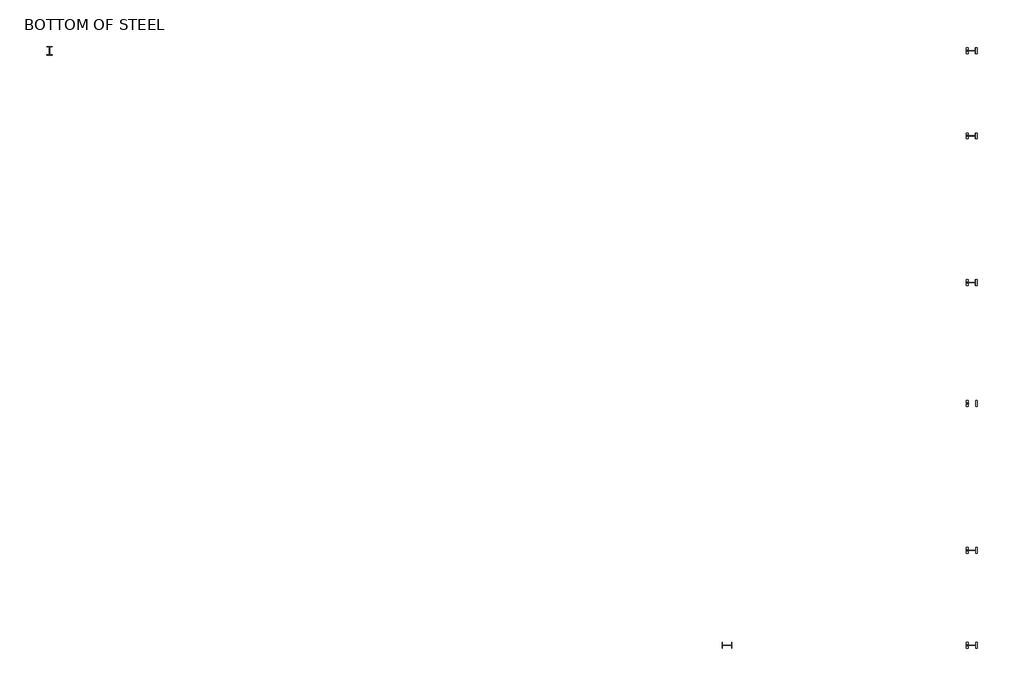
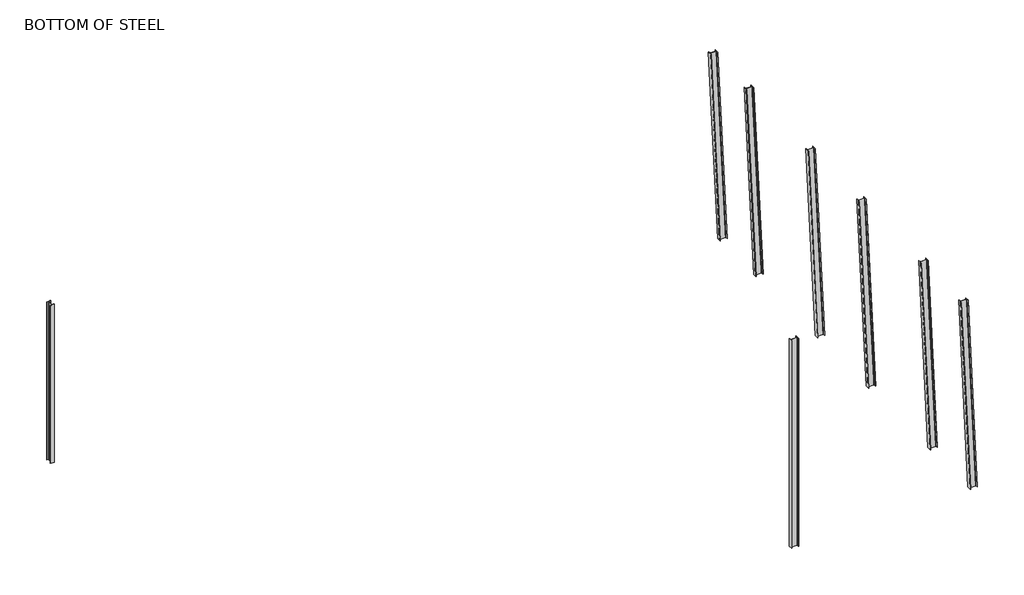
# One storey: 8 columns.
"""IFC4 building model written with IfcOpenShell, lengths in millimetres."""

from ifc_helpers import new_model, si_unit, point, frame, frame_2d, origin, place, context, project, spatial, polyline, circle_curve, ellipse_curve, trimmed, segment, composite_curve, outline, extrude, transform, mapped, element, save
from ifc_brep_helpers import plane_surface, revolved_surface, advanced_brep
from components import w_wide_flange_column_w12x40_d1cfc84d

model = new_model("IFC4")

# Units and contexts
model_context = context("Model", 3, world=origin())
ifc_project = project(units=[si_unit("LENGTHUNIT", "METRE", prefix="MILLI")], contexts=[model_context])

# Site, building, storey
site = spatial("IfcSite", under=ifc_project)
building = spatial("IfcBuilding", under=site)
storey = spatial("IfcBuildingStorey", under=building, Name="BOTTOM OF STEEL", Elevation=30302.2)

# Columns
placement = place(None, origin())
w_wide_flange_column_w12x40_shape = w_wide_flange_column_w12x40_d1cfc84d(model_context)
element("IfcColumn", 1, ObjectType="W-Wide Flange-Column : W12X40", at=placement, inside=storey, context=model_context, shape_type="MappedRepresentation", body=[
    mapped(w_wide_flange_column_w12x40_shape, transform((-10327.3204607, 7843.2445005, 0.0), x_axis=(-1.0000000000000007, 0.0, 0.0), y_axis=(0.0, -1.0000000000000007, 0.0), z_axis=(0.0, 0.0, 1.0))),
])
element("IfcColumn", 2, ObjectType="W-Wide Flange-Column : W14X43", at=placement, inside=storey, context=model_context, shape_type="SweptSolid", body=[
    extrude(outline(composite_curve([segment(polyline([(13394.2455549, -13038.8297182), (13407.7393049, -13038.8297182), (13407.7393049, -13115.0793276)]), True, "CONTINUOUS"), segment(trimmed(circle_curve(frame_2d((13429.1705549, -13115.0793276)), 21.43125), [point((13407.7393049, -13115.0793276))], [point((13429.1705549, -13136.5105776))], True, "CARTESIAN"), True, "CONTINUOUS"), segment(polyline([(13429.1705549, -13136.5105776), (13706.2885237, -13136.5105776)]), True, "CONTINUOUS"), segment(trimmed(circle_curve(frame_2d((13706.2885237, -13115.0793276)), 21.43125), [point((13706.2885237, -13136.5105776))], [point((13727.7197737, -13115.0793276))], True, "CARTESIAN"), True, "CONTINUOUS"), segment(polyline([(13727.7197737, -13115.0793276), (13727.7197737, -13038.8297182), (13741.2135237, -13038.8297182), (13741.2135237, -13241.9304995), (13727.7197737, -13241.9304995), (13727.7197737, -13165.6808901)]), True, "CONTINUOUS"), segment(trimmed(circle_curve(frame_2d((13706.2885237, -13165.6808901)), 21.43125), [point((13727.7197737, -13165.6808901))], [point((13706.2885237, -13144.2496401))], True, "CARTESIAN"), True, "CONTINUOUS"), segment(polyline([(13706.2885237, -13144.2496401), (13429.1705549, -13144.2496401)]), True, "CONTINUOUS"), segment(trimmed(circle_curve(frame_2d((13429.1705549, -13165.6808901)), 21.43125), [point((13429.1705549, -13144.2496401))], [point((13407.7393049, -13165.6808901))], True, "CARTESIAN"), True, "CONTINUOUS"), segment(polyline([(13407.7393049, -13165.6808901), (13407.7393049, -13241.9304995), (13394.2455549, -13241.9304995), (13394.2455549, -13038.8297182)]), True, "CONTINUOUS")], self_intersect=False)), frame((0.0, 0.0, 30302.2), z_axis=(0.0, 0.0, 1.0), x_axis=(1.0, 0.0, 0.0)), (0.0, 0.0, 1.0), 10644.6210144),
])
element("IfcColumn", 3, ObjectType="W-Wide Flange-Column : W14X43", at=placement, inside=storey, context=model_context, shape_type="AdvancedBrep", body=[
    advanced_brep(
    [(22401.0399532, 7741.6941099, 30310.5057441), (22387.5611284, 7741.6941099, 30309.8712594), (22387.5611284, 7817.9437193, 30309.8712594), (22366.1535831, 7839.3749693, 30308.8635484), (22089.3421295, 7839.3749693, 30295.8332848), (22067.9345842, 7817.9437193, 30294.8255738), (22067.9345842, 7741.6941099, 30294.8255738), (22054.4557594, 7741.6941099, 30294.1910891), (22054.4557594, 7944.7948911, 30294.1910891), (22067.9345842, 7944.7948911, 30294.8255738), (22067.9345842, 7868.5452818, 30294.8255738), (22089.3421295, 7847.1140318, 30295.8332848), (22366.1535831, 7847.1140318, 30308.8635484), (22387.5611284, 7868.5452818, 30309.8712594), (22387.5611284, 7944.7948911, 30309.8712594), (22401.0399532, 7944.7948911, 30310.5057441), (21930.12554, 7741.6941099, 40027.5112532), (21943.6342318, 7741.6941099, 40027.5112532), (21930.12554, 7817.9437193, 40027.5112532), (21908.6705591, 7839.3749693, 40027.5112532), (21631.2457358, 7839.3749693, 40027.5112532), (21609.7907548, 7817.9437193, 40027.5112532), (21609.7907548, 7741.6941099, 40027.5112532), (21596.2820631, 7741.6941099, 40027.5112532), (21596.2820631, 7944.7948911, 40027.5112532), (21609.7907548, 7944.7948911, 40027.5112532), (21609.7907548, 7868.5452818, 40027.5112532), (21631.2457358, 7847.1140318, 40027.5112532), (21908.6705591, 7847.1140318, 40027.5112532), (21930.12554, 7868.5452818, 40027.5112532), (21930.12554, 7944.7948911, 40027.5112532), (21943.6342318, 7944.7948911, 40027.5112532)],
    [
        (0, 1),
        (1, 2),
        (2, 3, circle_curve(frame((22366.1535831, 7817.9437193, 30308.8635484), z_axis=(-0.0470206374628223, 0.0, 0.9988939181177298), x_axis=(0.0, -1.0, 0.0)), 21.43125)),
        (3, 4),
        (4, 5, circle_curve(frame((22089.3421295, 7817.9437193, 30295.8332848), z_axis=(-0.0470206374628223, 0.0, 0.9988939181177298), x_axis=(0.0, -1.0, 0.0)), 21.43125)),
        (5, 6),
        (6, 7),
        (7, 8),
        (8, 9),
        (9, 10),
        (10, 11, circle_curve(frame((22089.3421295, 7868.5452818, 30295.8332848), z_axis=(-0.0470206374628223, 0.0, 0.9988939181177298), x_axis=(0.0, -1.0, 0.0)), 21.43125)),
        (11, 12),
        (12, 13, circle_curve(frame((22366.1535831, 7868.5452818, 30308.8635484), z_axis=(-0.0470206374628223, 0.0, 0.9988939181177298), x_axis=(0.0, -1.0, 0.0)), 21.43125)),
        (13, 14),
        (14, 15),
        (15, 0),
        (16, 1),
        (0, 17),
        (17, 16),
        (18, 2),
        (16, 18),
        (19, 3),
        (18, 19, ellipse_curve(frame((21908.6705591, 7817.9437193, 40027.5112532), z_axis=(0.0, 0.0, 1.0), x_axis=(1.0, 0.0, 0.0)), 21.454981, 21.43125)),
        (20, 4),
        (19, 20),
        (21, 5),
        (20, 21, ellipse_curve(frame((21631.2457358, 7817.9437193, 40027.5112532), z_axis=(0.0, 0.0, 1.0), x_axis=(1.0, 0.0, 0.0)), 21.454981, 21.43125)),
        (22, 6),
        (21, 22),
        (23, 7),
        (22, 23),
        (24, 8),
        (23, 24),
        (25, 9),
        (24, 25),
        (26, 10),
        (25, 26),
        (27, 11),
        (26, 27, ellipse_curve(frame((21631.2457358, 7868.5452818, 40027.5112532), z_axis=(0.0, 0.0, 1.0), x_axis=(1.0, 0.0, 0.0)), 21.454981, 21.43125)),
        (28, 12),
        (27, 28),
        (29, 13),
        (28, 29, ellipse_curve(frame((21908.6705591, 7868.5452818, 40027.5112532), z_axis=(0.0, 0.0, 1.0), x_axis=(1.0, 0.0, 0.0)), 21.454981, 21.43125)),
        (30, 14),
        (29, 30),
        (31, 15),
        (30, 31),
        (31, 17),
    ],
    [
        plane_surface(frame((22401.0399532, 7944.7948911, 30310.5057441), z_axis=(0.0470206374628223, 0.0, -0.9988939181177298), x_axis=(0.0, -1.0, 0.0))),
        plane_surface(frame((21910.8462782, 7741.6941099, 40437.074764), z_axis=(0.0, -1.0, 0.0), x_axis=(0.0470206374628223, 0.0, -0.9988939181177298))),
        plane_surface(frame((21910.8462782, 7817.9437193, 40437.074764), z_axis=(-0.9988939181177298, 0.0, -0.0470206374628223), x_axis=(0.0470206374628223, 0.0, -0.9988939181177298))),
        revolved_surface(polyline([(22366.153583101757, 7796.512469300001, 30308.863548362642), (21908.623123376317, 7796.512469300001, 40028.518964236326)]), (22366.1535831, 7817.9437193, 30308.8635484), (0.0470206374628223, 0.0, -0.9988939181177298)),
        plane_surface(frame((21612.6272794, 7839.3749693, 40423.0367894), z_axis=(0.0, -1.0, 0.0), x_axis=(0.0470206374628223, 0.0, -0.9988939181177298))),
        revolved_surface(polyline([(22089.3421295, 7796.512469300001, 30295.8332848), (21631.198300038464, 7796.512469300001, 40028.51896423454)]), (22089.3421295, 7817.9437193, 30295.8332848), (0.0470206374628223, 0.0, -0.9988939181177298)),
        plane_surface(frame((21591.2197341, 7741.6941099, 40422.0290784), z_axis=(0.9988939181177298, 0.0, 0.0470206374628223), x_axis=(0.0470206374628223, 0.0, -0.9988939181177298))),
        plane_surface(frame((21577.7409093, 7741.6941099, 40421.3945936), z_axis=(0.0, -1.0, 0.0), x_axis=(0.0470206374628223, 0.0, -0.9988939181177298))),
        plane_surface(frame((21577.7409093, 7944.7948911, 40421.3945936), z_axis=(-0.9988939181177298, 0.0, -0.0470206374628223), x_axis=(0.0470206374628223, 0.0, -0.9988939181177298))),
        plane_surface(frame((21591.2197341, 7944.7948911, 40422.0290784), z_axis=(0.0, 1.0, 0.0), x_axis=(0.0470206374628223, 0.0, -0.9988939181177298))),
        plane_surface(frame((21591.2197341, 7868.5452818, 40422.0290784), z_axis=(0.9988939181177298, 0.0, 0.0470206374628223), x_axis=(0.0470206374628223, 0.0, -0.9988939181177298))),
        revolved_surface(polyline([(22089.3421295, 7847.114031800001, 30295.8332848), (21631.198300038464, 7847.114031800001, 40028.51896423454)]), (22089.3421295, 7868.5452818, 30295.8332848), (0.0470206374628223, 0.0, -0.9988939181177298)),
        plane_surface(frame((21889.438733, 7847.1140318, 40436.0670529), z_axis=(0.0, 1.0, 0.0), x_axis=(0.0470206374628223, 0.0, -0.9988939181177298))),
        revolved_surface(polyline([(22366.153583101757, 7847.114031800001, 30308.863548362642), (21908.623123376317, 7847.114031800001, 40028.518964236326)]), (22366.1535831, 7868.5452818, 30308.8635484), (0.0470206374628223, 0.0, -0.9988939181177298)),
        plane_surface(frame((21910.8462782, 7944.7948911, 40437.074764), z_axis=(-0.9988939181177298, 0.0, -0.0470206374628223), x_axis=(0.0470206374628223, 0.0, -0.9988939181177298))),
        plane_surface(frame((21924.325103, 7944.7948911, 40437.7092487), z_axis=(0.0, 1.0, 0.0), x_axis=(0.0470206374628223, 0.0, -0.9988939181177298))),
        plane_surface(frame((21924.325103, 7741.6941099, 40437.7092487), z_axis=(0.9988939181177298, 0.0, 0.0470206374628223), x_axis=(0.0470206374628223, 0.0, -0.9988939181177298))),
        plane_surface(frame((21632.4522163, -14144.6665525, 40027.5112532), z_axis=(0.0, 0.0, 1.0), x_axis=(-1.0, 0.0, 0.0))),
    ],
    [
        (0, [[1, 2, 3, 4, 5, 6, 7, 8, 9, 10, 11, 12, 13, 14, 15, 16]]),
        (1, [[17, -1, 18, 19]]),
        (2, [[20, -2, -17, 21]]),
        (3, [[22, -3, -20, 23]]),
        (4, [[24, -4, -22, 25]]),
        (5, [[26, -5, -24, 27]]),
        (6, [[28, -6, -26, 29]]),
        (7, [[30, -7, -28, 31]]),
        (8, [[32, -8, -30, 33]]),
        (9, [[34, -9, -32, 35]]),
        (10, [[36, -10, -34, 37]]),
        (11, [[38, -11, -36, 39]]),
        (12, [[40, -12, -38, 41]]),
        (13, [[42, -13, -40, 43]]),
        (14, [[44, -14, -42, 45]]),
        (15, [[46, -15, -44, 47]]),
        (16, [[-18, -16, -46, 48]]),
        (17, [[-19, -48, -47, -45, -43, -41, -39, -37, -35, -33, -31, -29, -27, -25, -23, -21]]),
    ],
),
])
element("IfcColumn", 4, ObjectType="W-Wide Flange-Column : W14X43", at=placement, inside=storey, context=model_context, shape_type="AdvancedBrep", body=[
    advanced_brep(
    [(22401.0400188, 4741.2695005, 30310.5043501), (22387.5611889, 4741.2695005, 30309.8699738), (22387.5611889, 4817.5191099, 30309.8699738), (22366.1536355, 4838.9503599, 30308.862435), (22089.3420771, 4838.9503599, 30295.8343982), (22067.9345237, 4817.5191099, 30294.8268593), (22067.9345237, 4741.2695005, 30294.8268593), (22054.4556938, 4741.2695005, 30294.192483), (22054.4556938, 4944.3702818, 30294.192483), (22067.9345237, 4944.3702818, 30294.8268593), (22067.9345237, 4868.1206724, 30294.8268593), (22089.3420771, 4846.6894224, 30295.8343982), (22366.1536355, 4846.6894224, 30308.862435), (22387.5611889, 4868.1206724, 30309.8699738), (22387.5611889, 4944.3702818, 30309.8699738), (22401.0400188, 4944.3702818, 30310.5043501), (21930.1254794, 4741.2695005, 40029.1771213), (21943.634166, 4741.2695005, 40029.1771213), (21930.1254794, 4817.5191099, 40029.1771213), (21908.6705066, 4838.9503599, 40029.1771213), (21631.2457883, 4838.9503599, 40029.1771213), (21609.7908154, 4817.5191099, 40029.1771213), (21609.7908154, 4741.2695005, 40029.1771213), (21596.2821288, 4741.2695005, 40029.1771213), (21596.2821288, 4944.3702818, 40029.1771213), (21609.7908154, 4944.3702818, 40029.1771213), (21609.7908154, 4868.1206724, 40029.1771213), (21631.2457883, 4846.6894224, 40029.1771213), (21908.6705066, 4846.6894224, 40029.1771213), (21930.1254794, 4868.1206724, 40029.1771213), (21930.1254794, 4944.3702818, 40029.1771213), (21943.634166, 4944.3702818, 40029.1771213)],
    [
        (0, 1),
        (1, 2),
        (2, 3, circle_curve(frame((22366.1536355, 4817.5191099, 30308.862435), z_axis=(-0.04701260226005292, 0.0, 0.9988942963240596), x_axis=(0.0, -1.0, 0.0)), 21.43125)),
        (3, 4),
        (4, 5, circle_curve(frame((22089.3420771, 4817.5191099, 30295.8343982), z_axis=(-0.04701260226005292, 0.0, 0.9988942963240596), x_axis=(0.0, -1.0, 0.0)), 21.43125)),
        (5, 6),
        (6, 7),
        (7, 8),
        (8, 9),
        (9, 10),
        (10, 11, circle_curve(frame((22089.3420771, 4868.1206724, 30295.8343982), z_axis=(-0.04701260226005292, 0.0, 0.9988942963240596), x_axis=(0.0, -1.0, 0.0)), 21.43125)),
        (11, 12),
        (12, 13, circle_curve(frame((22366.1536355, 4868.1206724, 30308.862435), z_axis=(-0.04701260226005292, 0.0, 0.9988942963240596), x_axis=(0.0, -1.0, 0.0)), 21.43125)),
        (13, 14),
        (14, 15),
        (15, 0),
        (16, 1),
        (0, 17),
        (17, 16),
        (18, 2),
        (16, 18),
        (19, 3),
        (18, 19, ellipse_curve(frame((21908.6705066, 4817.5191099, 40029.1771213), z_axis=(0.0, 0.0, 1.0), x_axis=(1.0, 0.0, 0.0)), 21.4549728, 21.43125)),
        (20, 4),
        (19, 20),
        (21, 5),
        (20, 21, ellipse_curve(frame((21631.2457883, 4817.5191099, 40029.1771213), z_axis=(0.0, 0.0, 1.0), x_axis=(1.0, 0.0, 0.0)), 21.4549728, 21.43125)),
        (22, 6),
        (21, 22),
        (23, 7),
        (22, 23),
        (24, 8),
        (23, 24),
        (25, 9),
        (24, 25),
        (26, 10),
        (25, 26),
        (27, 11),
        (26, 27, ellipse_curve(frame((21631.2457883, 4868.1206724, 40029.1771213), z_axis=(0.0, 0.0, 1.0), x_axis=(1.0, 0.0, 0.0)), 21.4549728, 21.43125)),
        (28, 12),
        (27, 28),
        (29, 13),
        (28, 29, ellipse_curve(frame((21908.6705066, 4868.1206724, 40029.1771213), z_axis=(0.0, 0.0, 1.0), x_axis=(1.0, 0.0, 0.0)), 21.4549728, 21.43125)),
        (30, 14),
        (29, 30),
        (31, 15),
        (30, 31),
        (31, 17),
    ],
    [
        plane_surface(frame((22401.0400188, 4944.3702818, 30310.5043501), z_axis=(0.04701260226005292, 0.0, -0.9988942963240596), x_axis=(0.0, -1.0, 0.0))),
        plane_surface(frame((21910.84958, 4741.2695005, 40438.7393465), z_axis=(0.0, -1.0, 0.0), x_axis=(0.04701260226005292, 0.0, -0.9988942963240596))),
        plane_surface(frame((21910.84958, 4817.5191099, 40438.7393465), z_axis=(-0.9988942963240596, 0.0, -0.04701260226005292), x_axis=(0.04701260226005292, 0.0, -0.9988942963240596))),
        revolved_surface(polyline([(22366.153635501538, 4796.087859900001, 30308.862434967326), (21908.623087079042, 4796.087859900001, 40030.18466012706)]), (22366.1536355, 4817.5191099, 30308.862435), (0.04701260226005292, 0.0, -0.9988942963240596)),
        plane_surface(frame((21612.6304682, 4838.9503599, 40424.7037709), z_axis=(0.0, -1.0, 0.0), x_axis=(0.04701260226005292, 0.0, -0.9988942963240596))),
        revolved_surface(polyline([(22089.342077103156, 4796.087859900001, 30295.834398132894), (21631.198368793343, 4796.087859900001, 40030.184660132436)]), (22089.3420771, 4817.5191099, 30295.8343982), (0.04701260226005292, 0.0, -0.9988942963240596)),
        plane_surface(frame((21591.2229148, 4741.2695005, 40423.696232), z_axis=(0.9988942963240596, 0.0, 0.04701260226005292), x_axis=(0.04701260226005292, 0.0, -0.9988942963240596))),
        plane_surface(frame((21577.7440849, 4741.2695005, 40423.0618557), z_axis=(0.0, -1.0, 0.0), x_axis=(0.04701260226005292, 0.0, -0.9988942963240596))),
        plane_surface(frame((21577.7440849, 4944.3702818, 40423.0618557), z_axis=(-0.9988942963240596, 0.0, -0.04701260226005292), x_axis=(0.04701260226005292, 0.0, -0.9988942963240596))),
        plane_surface(frame((21591.2229148, 4944.3702818, 40423.696232), z_axis=(0.0, 1.0, 0.0), x_axis=(0.04701260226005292, 0.0, -0.9988942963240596))),
        plane_surface(frame((21591.2229148, 4868.1206724, 40423.696232), z_axis=(0.9988942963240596, 0.0, 0.04701260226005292), x_axis=(0.04701260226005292, 0.0, -0.9988942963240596))),
        revolved_surface(polyline([(22089.342077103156, 4846.689422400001, 30295.834398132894), (21631.198368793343, 4846.689422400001, 40030.184660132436)]), (22089.3420771, 4868.1206724, 30295.8343982), (0.04701260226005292, 0.0, -0.9988942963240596)),
        plane_surface(frame((21889.4420266, 4846.6894224, 40437.7318077), z_axis=(0.0, 1.0, 0.0), x_axis=(0.04701260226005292, 0.0, -0.9988942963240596))),
        revolved_surface(polyline([(22366.153635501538, 4846.689422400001, 30308.862434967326), (21908.623087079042, 4846.689422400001, 40030.18466012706)]), (22366.1536355, 4868.1206724, 30308.862435), (0.04701260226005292, 0.0, -0.9988942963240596)),
        plane_surface(frame((21910.84958, 4944.3702818, 40438.7393465), z_axis=(-0.9988942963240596, 0.0, -0.04701260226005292), x_axis=(0.04701260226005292, 0.0, -0.9988942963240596))),
        plane_surface(frame((21924.3284099, 4944.3702818, 40439.3737228), z_axis=(0.0, 1.0, 0.0), x_axis=(0.04701260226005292, 0.0, -0.9988942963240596))),
        plane_surface(frame((21924.3284099, 4741.2695005, 40439.3737228), z_axis=(0.9988942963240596, 0.0, 0.04701260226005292), x_axis=(0.04701260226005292, 0.0, -0.9988942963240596))),
        plane_surface(frame((21769.9581474, 4842.8198911, 40029.1771213), z_axis=(0.0, 0.0, 1.0), x_axis=(-1.0, 0.0, 0.0))),
    ],
    [
        (0, [[1, 2, 3, 4, 5, 6, 7, 8, 9, 10, 11, 12, 13, 14, 15, 16]]),
        (1, [[17, -1, 18, 19]]),
        (2, [[20, -2, -17, 21]]),
        (3, [[22, -3, -20, 23]]),
        (4, [[24, -4, -22, 25]]),
        (5, [[26, -5, -24, 27]]),
        (6, [[28, -6, -26, 29]]),
        (7, [[30, -7, -28, 31]]),
        (8, [[32, -8, -30, 33]]),
        (9, [[34, -9, -32, 35]]),
        (10, [[36, -10, -34, 37]]),
        (11, [[38, -11, -36, 39]]),
        (12, [[40, -12, -38, 41]]),
        (13, [[42, -13, -40, 43]]),
        (14, [[44, -14, -42, 45]]),
        (15, [[46, -15, -44, 47]]),
        (16, [[-18, -16, -46, 48]]),
        (17, [[-48, -47, -45, -43, -41, -39, -37, -35, -33, -31, -29, -27, -25, -23, -21, -19]]),
    ],
),
])
element("IfcColumn", 5, ObjectType="W-Wide Flange-Column : W14X43", at=placement, inside=storey, context=model_context, shape_type="AdvancedBrep", body=[
    advanced_brep(
    [(22401.0400188, -440.2312807, 30310.5043501), (22387.5611889, -440.2312807, 30309.8699738), (22387.5611889, -363.9816714, 30309.8699738), (22366.1536355, -342.5504214, 30308.862435), (22089.3420771, -342.5504214, 30295.8343982), (22067.9345237, -363.9816714, 30294.8268593), (22067.9345237, -440.2312807, 30294.8268593), (22054.4556938, -440.2312807, 30294.192483), (22054.4556938, -237.1304995, 30294.192483), (22067.9345237, -237.1304995, 30294.8268593), (22067.9345237, -313.3801089, 30294.8268593), (22089.3420771, -334.8113589, 30295.8343982), (22366.1536355, -334.8113589, 30308.862435), (22387.5611889, -313.3801089, 30309.8699738), (22387.5611889, -237.1304995, 30309.8699738), (22401.0400188, -237.1304995, 30310.5043501), (21929.7416233, -440.2312807, 40037.3330549), (21943.2503099, -440.2312807, 40037.3330549), (21929.7416233, -363.9816714, 40037.3330549), (21908.2866505, -342.5504214, 40037.3330549), (21630.8619322, -342.5504214, 40037.3330549), (21609.4069593, -363.9816714, 40037.3330549), (21609.4069593, -440.2312807, 40037.3330549), (21595.8982727, -440.2312807, 40037.3330549), (21595.8982727, -237.1304995, 40037.3330549), (21609.4069593, -237.1304995, 40037.3330549), (21609.4069593, -313.3801089, 40037.3330549), (21630.8619322, -334.8113589, 40037.3330549), (21908.2866505, -334.8113589, 40037.3330549), (21929.7416233, -313.3801089, 40037.3330549), (21929.7416233, -237.1304995, 40037.3330549), (21943.2503099, -237.1304995, 40037.3330549)],
    [
        (0, 1),
        (1, 2),
        (2, 3, circle_curve(frame((22366.1536355, -363.9816714, 30308.862435), z_axis=(-0.04701260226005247, 0.0, 0.9988942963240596), x_axis=(0.0, -1.0, 0.0)), 21.43125)),
        (3, 4),
        (4, 5, circle_curve(frame((22089.3420771, -363.9816714, 30295.8343982), z_axis=(-0.04701260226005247, 0.0, 0.9988942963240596), x_axis=(0.0, -1.0, 0.0)), 21.43125)),
        (5, 6),
        (6, 7),
        (7, 8),
        (8, 9),
        (9, 10),
        (10, 11, circle_curve(frame((22089.3420771, -313.3801089, 30295.8343982), z_axis=(-0.04701260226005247, 0.0, 0.9988942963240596), x_axis=(0.0, -1.0, 0.0)), 21.43125)),
        (11, 12),
        (12, 13, circle_curve(frame((22366.1536355, -313.3801089, 30308.862435), z_axis=(-0.04701260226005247, 0.0, 0.9988942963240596), x_axis=(0.0, -1.0, 0.0)), 21.43125)),
        (13, 14),
        (14, 15),
        (15, 0),
        (16, 1),
        (0, 17),
        (17, 16),
        (18, 2),
        (16, 18),
        (19, 3),
        (18, 19, ellipse_curve(frame((21908.2866505, -363.9816714, 40037.3330549), z_axis=(0.0, 0.0, 1.0), x_axis=(1.0, 0.0, 0.0)), 21.4549728, 21.43125)),
        (20, 4),
        (19, 20),
        (21, 5),
        (20, 21, ellipse_curve(frame((21630.8619322, -363.9816714, 40037.3330549), z_axis=(0.0, 0.0, 1.0), x_axis=(1.0, 0.0, 0.0)), 21.4549728, 21.43125)),
        (22, 6),
        (21, 22),
        (23, 7),
        (22, 23),
        (24, 8),
        (23, 24),
        (25, 9),
        (24, 25),
        (26, 10),
        (25, 26),
        (27, 11),
        (26, 27, ellipse_curve(frame((21630.8619322, -313.3801089, 40037.3330549), z_axis=(0.0, 0.0, 1.0), x_axis=(1.0, 0.0, 0.0)), 21.4549728, 21.43125)),
        (28, 12),
        (27, 28),
        (29, 13),
        (28, 29, ellipse_curve(frame((21908.2866505, -313.3801089, 40037.3330549), z_axis=(0.0, 0.0, 1.0), x_axis=(1.0, 0.0, 0.0)), 21.4549728, 21.43125)),
        (30, 14),
        (29, 30),
        (31, 15),
        (30, 31),
        (31, 17),
    ],
    [
        plane_surface(frame((22401.0400188, -237.1304995, 30310.5043501), z_axis=(0.04701260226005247, 0.0, -0.9988942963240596), x_axis=(0.0, -1.0, 0.0))),
        plane_surface(frame((21910.49831, -440.2312807, 40446.2029096), z_axis=(0.0, -1.0, 0.0), x_axis=(0.04701260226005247, 0.0, -0.9988942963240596))),
        plane_surface(frame((21910.49831, -363.9816714, 40446.2029096), z_axis=(-0.9988942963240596, 0.0, -0.04701260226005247), x_axis=(0.04701260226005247, 0.0, -0.9988942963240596))),
        revolved_surface(polyline([(22366.153635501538, -385.41292139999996, 30308.862434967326), (21908.239230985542, -385.41292139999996, 40038.340593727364)]), (22366.1536355, -363.9816714, 30308.862435), (0.04701260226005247, 0.0, -0.9988942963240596)),
        plane_surface(frame((21612.2791983, -342.5504214, 40432.1673339), z_axis=(0.0, -1.0, 0.0), x_axis=(0.04701260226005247, 0.0, -0.9988942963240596))),
        revolved_surface(polyline([(22089.342077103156, -385.41292139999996, 30295.834398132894), (21630.814512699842, -385.41292139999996, 40038.34059373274)]), (22089.3420771, -363.9816714, 30295.8343982), (0.04701260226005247, 0.0, -0.9988942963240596)),
        plane_surface(frame((21590.8716449, -440.2312807, 40431.1597951), z_axis=(0.9988942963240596, 0.0, 0.04701260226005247), x_axis=(0.04701260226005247, 0.0, -0.9988942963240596))),
        plane_surface(frame((21577.392815, -440.2312807, 40430.5254188), z_axis=(0.0, -1.0, 0.0), x_axis=(0.04701260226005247, 0.0, -0.9988942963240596))),
        plane_surface(frame((21577.392815, -237.1304995, 40430.5254188), z_axis=(-0.9988942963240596, 0.0, -0.04701260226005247), x_axis=(0.04701260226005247, 0.0, -0.9988942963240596))),
        plane_surface(frame((21590.8716449, -237.1304995, 40431.1597951), z_axis=(0.0, 1.0, 0.0), x_axis=(0.04701260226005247, 0.0, -0.9988942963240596))),
        plane_surface(frame((21590.8716449, -313.3801089, 40431.1597951), z_axis=(0.9988942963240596, 0.0, 0.04701260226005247), x_axis=(0.04701260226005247, 0.0, -0.9988942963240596))),
        revolved_surface(polyline([(22089.342077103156, -334.81135889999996, 30295.834398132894), (21630.814512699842, -334.81135889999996, 40038.34059373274)]), (22089.3420771, -313.3801089, 30295.8343982), (0.04701260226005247, 0.0, -0.9988942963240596)),
        plane_surface(frame((21889.0907567, -334.8113589, 40445.1953708), z_axis=(0.0, 1.0, 0.0), x_axis=(0.04701260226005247, 0.0, -0.9988942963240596))),
        revolved_surface(polyline([(22366.153635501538, -334.81135889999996, 30308.862434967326), (21908.239230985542, -334.81135889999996, 40038.340593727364)]), (22366.1536355, -313.3801089, 30308.862435), (0.04701260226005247, 0.0, -0.9988942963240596)),
        plane_surface(frame((21910.49831, -237.1304995, 40446.2029096), z_axis=(-0.9988942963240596, 0.0, -0.04701260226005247), x_axis=(0.04701260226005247, 0.0, -0.9988942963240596))),
        plane_surface(frame((21923.97714, -237.1304995, 40446.8372859), z_axis=(0.0, 1.0, 0.0), x_axis=(0.04701260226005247, 0.0, -0.9988942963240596))),
        plane_surface(frame((21923.97714, -440.2312807, 40446.8372859), z_axis=(0.9988942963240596, 0.0, 0.04701260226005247), x_axis=(0.04701260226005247, 0.0, -0.9988942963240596))),
        plane_surface(frame((21769.9581474, -338.6808901, 40037.3330549), z_axis=(0.0, 0.0, 1.0), x_axis=(-1.0, 0.0, 0.0))),
    ],
    [
        (0, [[1, 2, 3, 4, 5, 6, 7, 8, 9, 10, 11, 12, 13, 14, 15, 16]]),
        (1, [[17, -1, 18, 19]]),
        (2, [[20, -2, -17, 21]]),
        (3, [[22, -3, -20, 23]]),
        (4, [[24, -4, -22, 25]]),
        (5, [[26, -5, -24, 27]]),
        (6, [[28, -6, -26, 29]]),
        (7, [[30, -7, -28, 31]]),
        (8, [[32, -8, -30, 33]]),
        (9, [[34, -9, -32, 35]]),
        (10, [[36, -10, -34, 37]]),
        (11, [[38, -11, -36, 39]]),
        (12, [[40, -12, -38, 41]]),
        (13, [[42, -13, -40, 43]]),
        (14, [[44, -14, -42, 45]]),
        (15, [[46, -15, -44, 47]]),
        (16, [[-18, -16, -46, 48]]),
        (17, [[-48, -47, -45, -43, -41, -39, -37, -35, -33, -31, -29, -27, -25, -23, -21, -19]]),
    ],
),
])
element("IfcColumn", 6, ObjectType="W-Wide Flange-Column : W14X43", at=placement, inside=storey, context=model_context, shape_type="AdvancedBrep", body=[
    advanced_brep(
    [(22401.0414179, -4707.5311023, 30310.467032), (22387.5624517, -4707.5310554, 30309.8355583), (22387.5627169, -4631.281446, 30309.8355583), (22366.1550216, -4609.8501215, 30308.8326295), (22089.3406641, -4609.8491587, 30295.8642036), (22067.9328197, -4631.2803342, 30294.8612749), (22067.9325545, -4707.5299436, 30294.8612749), (22054.4535883, -4707.5298967, 30294.2298012), (22054.4542947, -4504.4291155, 30294.2298012), (22067.9332609, -4504.4291623, 30294.8612749), (22067.9329957, -4580.6787717, 30294.8612749), (22089.340691, -4602.1100962, 30295.8642036), (22366.1550485, -4602.111059, 30308.8326295), (22387.562893, -4580.6798835, 30309.8355583), (22387.5631582, -4504.4302741, 30309.8355583), (22401.0421244, -4504.430321, 30310.467032), (21931.8534825, -4707.5294703, 40037.0596917), (21945.3620327, -4707.5295172, 40037.0596884), (21931.853155, -4631.2798609, 40037.0723444), (21910.3983068, -4609.8485363, 40037.075906), (21632.9763906, -4609.8475713, 40037.0759744), (21611.5217265, -4631.2787466, 40037.0724235), (21611.5220541, -4707.528356, 40037.0597708), (21598.0135039, -4707.528309, 40037.0597741), (21598.0126315, -4504.4275278, 40037.0934762), (21611.5211816, -4504.4275748, 40037.0934729), (21611.5215092, -4580.6771841, 40037.0808202), (21632.9763574, -4602.1085088, 40037.0772586), (21910.3982735, -4602.1094738, 40037.0771902), (21931.8529376, -4580.6782984, 40037.0807411), (21931.8526101, -4504.428689, 40037.0933938), (21945.3611602, -4504.428736, 40037.0933905)],
    [
        (0, 1),
        (1, 2),
        (2, 3, circle_curve(frame((22366.1549471, -4631.2813715, 30308.8326295), z_axis=(-0.04679749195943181, 1.6277925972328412e-07, 0.9989043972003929), x_axis=(-3.4783757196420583e-06, -0.9999999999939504, 0.0)), 21.43125)),
        (3, 4),
        (4, 5, circle_curve(frame((22089.3405896, -4631.2804087, 30295.8642036), z_axis=(-0.04679749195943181, 1.6277925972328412e-07, 0.9989043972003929), x_axis=(-3.4783757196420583e-06, -0.9999999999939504, 0.0)), 21.43125)),
        (5, 6),
        (6, 7),
        (7, 8),
        (8, 9),
        (9, 10),
        (10, 11, circle_curve(frame((22089.3407656, -4580.6788462, 30295.8642036), z_axis=(-0.04679749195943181, 1.6277925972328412e-07, 0.9989043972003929), x_axis=(-3.4783757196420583e-06, -0.9999999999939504, 0.0)), 21.43125)),
        (11, 12),
        (12, 13, circle_curve(frame((22366.1551231, -4580.679809, 30308.8326295), z_axis=(-0.04679749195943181, 1.6277925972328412e-07, 0.9989043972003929), x_axis=(-3.4783757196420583e-06, -0.9999999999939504, 0.0)), 21.43125)),
        (13, 14),
        (14, 15),
        (15, 0),
        (16, 1),
        (0, 17),
        (17, 16),
        (18, 2),
        (16, 18),
        (19, 3),
        (18, 19, ellipse_curve(frame((21910.3983988, -4631.2797863, 40037.0723497), z_axis=(2.4618600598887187e-07, -0.00016593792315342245, 0.9999999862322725), x_axis=(0.9999937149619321, -0.003545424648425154, -8.345048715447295e-07)), 21.4547564, 21.43125)),
        (20, 4),
        (19, 20),
        (21, 5),
        (20, 21, ellipse_curve(frame((21632.9764827, -4631.2788213, 40037.0724182), z_axis=(2.4618600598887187e-07, -0.00016593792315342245, 0.9999999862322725), x_axis=(0.9999937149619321, -0.003545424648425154, -8.345048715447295e-07)), 21.4547564, 21.43125)),
        (22, 6),
        (21, 22),
        (23, 7),
        (22, 23),
        (24, 8),
        (23, 24),
        (25, 9),
        (24, 25),
        (26, 10),
        (25, 26),
        (27, 11),
        (26, 27, ellipse_curve(frame((21632.9762653, -4580.6772588, 40037.0808149), z_axis=(2.4618600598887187e-07, -0.00016593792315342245, 0.9999999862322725), x_axis=(0.9999937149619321, -0.003545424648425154, -8.345048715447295e-07)), 21.4547564, 21.43125)),
        (28, 12),
        (27, 28),
        (29, 13),
        (28, 29, ellipse_curve(frame((21910.3981815, -4580.6782238, 40037.0807464), z_axis=(2.4618600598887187e-07, -0.00016593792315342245, 0.9999999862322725), x_axis=(0.9999937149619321, -0.003545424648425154, -8.345048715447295e-07)), 21.4547564, 21.43125)),
        (30, 14),
        (29, 30),
        (31, 15),
        (30, 31),
        (31, 17),
    ],
    [
        plane_surface(frame((22401.0421244, -4504.430321, 30310.467032), z_axis=(0.046797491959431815, -1.6277925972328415e-07, -0.9989043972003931), x_axis=(-3.4783757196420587e-06, -0.9999999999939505, 0.0))),
        plane_surface(frame((21912.6667962, -4707.5294035, 40446.6044021), z_axis=(-3.4783757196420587e-06, -0.9999999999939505, 0.0), x_axis=(0.04679749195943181, -1.6277925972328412e-07, -0.9989043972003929))),
        plane_surface(frame((21912.6670615, -4631.2797941, 40446.6044021), z_axis=(-0.9989043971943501, 3.4745648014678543e-06, -0.046797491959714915), x_axis=(0.04679749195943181, -1.6277925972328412e-07, -0.9989043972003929))),
        revolved_surface(polyline([(22366.15487255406, -4652.712621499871, 30308.8326295), (21910.351337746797, -4652.711036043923, 40038.07529005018)]), (22366.1549471, -4631.2813715, 30308.8326295), (0.04679749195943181, -1.6277925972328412e-07, -0.9989043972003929)),
        plane_surface(frame((21614.4450086, -4609.8475068, 40432.6330475), z_axis=(-3.4783757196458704e-06, -0.9999999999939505, 0.0), x_axis=(0.04679749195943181, -1.6277925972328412e-07, -0.9989043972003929))),
        revolved_surface(polyline([(22089.34051505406, -4652.711658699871, 30295.8642036), (21632.929421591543, -4652.710071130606, 40038.07535854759)]), (22089.3405896, -4631.2804087, 30295.8642036), (0.04679749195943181, -1.6277925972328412e-07, -0.9989043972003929)),
        plane_surface(frame((21593.036899, -4707.5282917, 40431.6301187), z_axis=(0.9989043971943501, -3.4745648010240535e-06, 0.046797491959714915), x_axis=(0.04679749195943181, -1.6277925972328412e-07, -0.9989043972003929))),
        plane_surface(frame((21579.5579328, -4707.5282448, 40430.9986451), z_axis=(-3.4783757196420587e-06, -0.9999999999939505, 0.0), x_axis=(0.04679749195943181, -1.6277925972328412e-07, -0.9989043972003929))),
        plane_surface(frame((21579.5586392, -4504.4274636, 40430.9986451), z_axis=(-0.9989043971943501, 3.4745648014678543e-06, -0.046797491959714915), x_axis=(0.04679749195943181, -1.6277925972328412e-07, -0.9989043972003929))),
        plane_surface(frame((21593.0376055, -4504.4275105, 40431.6301187), z_axis=(3.4783757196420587e-06, 0.9999999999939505, 0.0), x_axis=(0.04679749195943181, -1.6277925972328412e-07, -0.9989043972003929))),
        plane_surface(frame((21593.0373402, -4580.6771199, 40431.6301187), z_axis=(0.9989043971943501, -3.4745648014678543e-06, 0.046797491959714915), x_axis=(0.04679749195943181, -1.6277925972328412e-07, -0.9989043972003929))),
        revolved_surface(polyline([(22089.34069105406, -4602.110096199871, 30295.8642036), (21632.92920421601, -4602.108508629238, 40038.08375524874)]), (22089.3407656, -4580.6788462, 30295.8642036), (0.04679749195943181, -1.6277925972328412e-07, -0.9989043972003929)),
        plane_surface(frame((21891.2593931, -4602.1094072, 40445.6014734), z_axis=(3.478375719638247e-06, 0.9999999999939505, 0.0), x_axis=(0.04679749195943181, -1.6277925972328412e-07, -0.9989043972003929))),
        revolved_surface(polyline([(22366.15504855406, -4602.111058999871, 30308.8326295), (21910.351120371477, -4602.109473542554, 40038.08368674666)]), (22366.1551231, -4580.679809, 30308.8326295), (0.04679749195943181, -1.6277925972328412e-07, -0.9989043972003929)),
        plane_surface(frame((21912.6675027, -4504.4286223, 40446.6044021), z_axis=(-0.9989043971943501, 3.4745648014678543e-06, -0.046797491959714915), x_axis=(0.04679749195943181, -1.6277925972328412e-07, -0.9989043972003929))),
        plane_surface(frame((21926.1464689, -4504.4286692, 40447.2358758), z_axis=(3.4783757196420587e-06, 0.9999999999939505, 0.0), x_axis=(0.04679749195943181, -1.6277925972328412e-07, -0.9989043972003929))),
        plane_surface(frame((21926.1457625, -4707.5294504, 40447.2358758), z_axis=(0.9989043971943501, -3.4745648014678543e-06, 0.046797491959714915), x_axis=(0.04679749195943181, -1.6277925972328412e-07, -0.9989043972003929))),
        plane_surface(frame((21772.0684731, -4605.9798738, 40037.076582), z_axis=(2.4618600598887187e-07, -0.00016593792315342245, 0.9999999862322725), x_axis=(-0.9999999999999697, -4.085159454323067e-11, 2.4618600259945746e-07))),
    ],
    [
        (0, [[1, 2, 3, 4, 5, 6, 7, 8, 9, 10, 11, 12, 13, 14, 15, 16]]),
        (1, [[17, -1, 18, 19]]),
        (2, [[20, -2, -17, 21]]),
        (3, [[22, -3, -20, 23]]),
        (4, [[24, -4, -22, 25]]),
        (5, [[26, -5, -24, 27]]),
        (6, [[28, -6, -26, 29]]),
        (7, [[30, -7, -28, 31]]),
        (8, [[32, -8, -30, 33]]),
        (9, [[34, -9, -32, 35]]),
        (10, [[36, -10, -34, 37]]),
        (11, [[38, -11, -36, 39]]),
        (12, [[40, -12, -38, 41]]),
        (13, [[42, -13, -40, 43]]),
        (14, [[44, -14, -42, 45]]),
        (15, [[46, -15, -44, 47]]),
        (16, [[-18, -16, -46, 48]]),
        (17, [[-48, -47, -45, -43, -41, -39, -37, -35, -33, -31, -29, -27, -25, -23, -21, -19]]),
    ],
),
])
element("IfcColumn", 7, ObjectType="W-Wide Flange-Column : W14X43", at=placement, inside=storey, context=model_context, shape_type="AdvancedBrep", body=[
    advanced_brep(
    [(22401.0489344, -9889.0298354, 30310.3310677), (22387.5694769, -9889.0299479, 30309.7101695), (22387.568841, -9812.7803385, 30309.7101695), (22366.1601121, -9791.349267, 30308.724037), (22089.3356651, -9791.3515757, 30295.9727962), (22067.9272937, -9812.7830042, 30294.9866637), (22067.9279296, -9889.0326136, 30294.9866637), (22054.4484721, -9889.032726, 30294.3657655), (22054.4467783, -9685.9319448, 30294.3657655), (22067.9262358, -9685.9318324, 30294.9866637), (22067.9268717, -9762.1814417, 30294.9866637), (22089.3356006, -9783.6125132, 30295.9727962), (22366.1600476, -9783.6102045, 30308.724037), (22387.568419, -9762.178776, 30309.7101695), (22387.5677831, -9685.9291666, 30309.7101695), (22401.0472406, -9685.9290542, 30310.3310677), (21939.9172689, -9889.0336812, 40028.0643725), (21953.4253268, -9889.0335685, 40028.0643692), (21939.9160502, -9812.7840718, 40028.0770252), (21918.4617335, -9791.3530007, 40028.0805867), (21641.0499287, -9791.3553143, 40028.0806546), (21619.5962971, -9812.7867432, 40028.0771036), (21619.5975158, -9889.0363526, 40028.0644509), (21606.089458, -9889.0364652, 40028.0644542), (21606.0862117, -9685.935684, 40028.0981563), (21619.5942696, -9685.9355713, 40028.098153), (21619.5954883, -9762.1851807, 40028.0855003), (21641.049805, -9783.6162518, 40028.0819388), (21918.4616098, -9783.6139382, 40028.0818709), (21939.9152414, -9762.1825093, 40028.0854219), (21939.9140227, -9685.9329, 40028.0980746), (21953.4220805, -9685.9327873, 40028.0980713)],
    [
        (0, 1),
        (1, 2),
        (2, 3, circle_curve(frame((22366.1602908, -9812.780517, 30308.724037), z_axis=(-0.04601376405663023, -3.8374430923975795e-07, 0.9989408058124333), x_axis=(8.33977217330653e-06, -0.9999999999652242, 0.0)), 21.43125)),
        (3, 4),
        (4, 5, circle_curve(frame((22089.3358438, -9812.7828257, 30295.9727962), z_axis=(-0.04601376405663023, -3.8374430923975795e-07, 0.9989408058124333), x_axis=(8.33977217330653e-06, -0.9999999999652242, 0.0)), 21.43125)),
        (5, 6),
        (6, 7),
        (7, 8),
        (8, 9),
        (9, 10),
        (10, 11, circle_curve(frame((22089.3354218, -9762.1812632, 30295.9727962), z_axis=(-0.04601376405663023, -3.8374430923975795e-07, 0.9989408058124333), x_axis=(8.33977217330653e-06, -0.9999999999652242, 0.0)), 21.43125)),
        (11, 12),
        (12, 13, circle_curve(frame((22366.1598688, -9762.1789545, 30308.724037), z_axis=(-0.04601376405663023, -3.8374430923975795e-07, 0.9989408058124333), x_axis=(8.33977217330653e-06, -0.9999999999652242, 0.0)), 21.43125)),
        (13, 14),
        (14, 15),
        (15, 0),
        (16, 1),
        (0, 17),
        (17, 16),
        (18, 2),
        (16, 18),
        (19, 3),
        (18, 19, ellipse_curve(frame((21918.4620761, -9812.7842507, 40028.0770304), z_axis=(2.4618600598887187e-07, -0.00016593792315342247, 0.9999999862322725), x_axis=(0.9999935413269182, -0.0035940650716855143, -8.425761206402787e-07)), 21.4539745, 21.43125)),
        (20, 4),
        (19, 20),
        (21, 5),
        (20, 21, ellipse_curve(frame((21641.0502712, -9812.7865643, 40028.0770984), z_axis=(2.4618600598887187e-07, -0.00016593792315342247, 0.9999999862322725), x_axis=(0.9999935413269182, -0.0035940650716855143, -8.425761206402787e-07)), 21.4539745, 21.43125)),
        (22, 6),
        (21, 22),
        (23, 7),
        (22, 23),
        (24, 8),
        (23, 24),
        (25, 9),
        (24, 25),
        (26, 10),
        (25, 26),
        (27, 11),
        (26, 27, ellipse_curve(frame((21641.0494624, -9762.1850018, 40028.0854951), z_axis=(2.4618600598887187e-07, -0.00016593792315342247, 0.9999999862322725), x_axis=(0.9999935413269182, -0.0035940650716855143, -8.425761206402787e-07)), 21.4539745, 21.43125)),
        (28, 12),
        (27, 28),
        (29, 13),
        (28, 29, ellipse_curve(frame((21918.4612673, -9762.1826882, 40028.0854272), z_axis=(2.4618600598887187e-07, -0.00016593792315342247, 0.9999999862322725), x_axis=(0.9999935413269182, -0.0035940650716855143, -8.425761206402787e-07)), 21.4539745, 21.43125)),
        (30, 14),
        (29, 30),
        (31, 15),
        (30, 31),
        (31, 17),
    ],
    [
        plane_surface(frame((22401.0472406, -9685.9290542, 30310.3310677), z_axis=(0.04601376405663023, 3.8374430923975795e-07, -0.9989408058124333), x_axis=(8.33977217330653e-06, -0.9999999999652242, 0.0))),
        plane_surface(frame((21921.0583697, -9889.0338385, 40437.4836937), z_axis=(8.339772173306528e-06, -0.9999999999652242, 0.0), x_axis=(0.04601376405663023, 3.8374430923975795e-07, -0.9989408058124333))),
        plane_surface(frame((21921.0577338, -9812.7842291, 40437.4836937), z_axis=(-0.9989408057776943, -8.330938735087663e-06, -0.046013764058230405), x_axis=(0.04601376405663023, 3.8374430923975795e-07, -0.9989408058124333))),
        revolved_surface(polyline([(22366.160469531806, -9834.211766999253, 30308.72403699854), (21918.416830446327, -9834.215501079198, 40029.063174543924)]), (22366.1602908, -9812.780517, 30308.724037), (0.04601376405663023, 3.8374430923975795e-07, -0.9989408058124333)),
        plane_surface(frame((21622.8245579, -9791.3554663, 40423.7463204), z_axis=(8.339772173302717e-06, -0.9999999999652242, 0.0), x_axis=(0.04601376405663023, 3.8374430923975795e-07, -0.9989408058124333))),
        revolved_surface(polyline([(22089.33602253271, -9834.214075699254, 30295.972796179), (21641.005025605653, -9834.217814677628, 40029.063242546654)]), (22089.3358438, -9812.7828257, 30295.9727962), (0.04601376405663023, 3.8374430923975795e-07, -0.9989408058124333)),
        plane_surface(frame((21601.4168224, -9889.0365042, 40422.7601879), z_axis=(0.9989408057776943, 8.330938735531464e-06, 0.046013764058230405), x_axis=(0.04601376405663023, 3.8374430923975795e-07, -0.9989408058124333))),
        plane_surface(frame((21587.9373649, -9889.0366166, 40422.1392897), z_axis=(8.339772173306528e-06, -0.9999999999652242, 0.0), x_axis=(0.04601376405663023, 3.8374430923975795e-07, -0.9989408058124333))),
        plane_surface(frame((21587.9356711, -9685.9358354, 40422.1392897), z_axis=(-0.9989408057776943, -8.330938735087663e-06, -0.046013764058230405), x_axis=(0.04601376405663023, 3.8374430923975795e-07, -0.9989408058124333))),
        plane_surface(frame((21601.4151286, -9685.935723, 40422.7601879), z_axis=(-8.339772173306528e-06, 0.9999999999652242, 0.0), x_axis=(0.04601376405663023, 3.8374430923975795e-07, -0.9989408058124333))),
        plane_surface(frame((21601.4157645, -9762.1853323, 40422.7601879), z_axis=(0.9989408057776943, 8.330938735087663e-06, 0.046013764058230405), x_axis=(0.04601376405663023, 3.8374430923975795e-07, -0.9989408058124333))),
        revolved_surface(polyline([(22089.335600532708, -9783.612513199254, 30295.972796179), (21641.004216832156, -9783.616252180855, 40029.07163924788)]), (22089.3354218, -9762.1812632, 30295.9727962), (0.04601376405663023, 3.8374430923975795e-07, -0.9989408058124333)),
        plane_surface(frame((21899.6489403, -9783.6140951, 40436.4975612), z_axis=(-8.339772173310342e-06, 0.9999999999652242, 0.0), x_axis=(0.04601376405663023, 3.8374430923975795e-07, -0.9989408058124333))),
        revolved_surface(polyline([(22366.16004753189, -9783.610204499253, 30308.724036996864), (21918.416021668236, -9783.613938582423, 40029.07157134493)]), (22366.1598688, -9762.1789545, 30308.724037), (0.04601376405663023, 3.8374430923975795e-07, -0.9989408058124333)),
        plane_surface(frame((21921.0566758, -9685.9330572, 40437.4836937), z_axis=(-0.9989408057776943, -8.330938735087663e-06, -0.046013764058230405), x_axis=(0.04601376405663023, 3.8374430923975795e-07, -0.9989408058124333))),
        plane_surface(frame((21934.5361333, -9685.9329448, 40438.1045919), z_axis=(-8.339772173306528e-06, 0.9999999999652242, 0.0), x_axis=(0.04601376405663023, 3.8374430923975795e-07, -0.9989408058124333))),
        plane_surface(frame((21934.5378272, -9889.033726, 40438.1045919), z_axis=(0.9989408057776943, 8.330938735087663e-06, 0.046013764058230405), x_axis=(0.04601376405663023, 3.8374430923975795e-07, -0.9989408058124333))),
        plane_surface(frame((21779.7557692, -9787.4846263, 40028.0812628), z_axis=(2.4618600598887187e-07, -0.00016593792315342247, 0.9999999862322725), x_axis=(-0.9999999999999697, -4.0851594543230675e-11, 2.4618600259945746e-07))),
    ],
    [
        (0, [[1, 2, 3, 4, 5, 6, 7, 8, 9, 10, 11, 12, 13, 14, 15, 16]]),
        (1, [[17, -1, 18, 19]]),
        (2, [[20, -2, -17, 21]]),
        (3, [[22, -3, -20, 23]]),
        (4, [[24, -4, -22, 25]]),
        (5, [[26, -5, -24, 27]]),
        (6, [[28, -6, -26, 29]]),
        (7, [[30, -7, -28, 31]]),
        (8, [[32, -8, -30, 33]]),
        (9, [[34, -9, -32, 35]]),
        (10, [[36, -10, -34, 37]]),
        (11, [[38, -11, -36, 39]]),
        (12, [[40, -12, -38, 41]]),
        (13, [[42, -13, -40, 43]]),
        (14, [[44, -14, -42, 45]]),
        (15, [[46, -15, -44, 47]]),
        (16, [[-18, -16, -46, 48]]),
        (17, [[-48, -47, -45, -43, -41, -39, -37, -35, -33, -31, -29, -27, -25, -23, -21, -19]]),
    ],
),
])
element("IfcColumn", 8, ObjectType="W-Wide Flange-Column : W14X43", at=placement, inside=storey, context=model_context, shape_type="AdvancedBrep", body=[
    advanced_brep(
    [(22401.0522574, -13241.9304995, 30310.2400201), (22387.5724756, -13241.9304995, 30309.6262036), (22387.5724756, -13165.6808901, 30309.6262036), (22366.1634103, -13144.2496401, 30308.6513187), (22089.3323024, -13144.2496401, 30296.0455145), (22067.9232371, -13165.6808901, 30295.0706295), (22067.9232371, -13241.9304995, 30295.0706295), (22054.4434553, -13241.9304995, 30294.4568131), (22054.4434553, -13038.8297182, 30294.4568131), (22067.9232371, -13038.8297182, 30295.0706295), (22067.9232371, -13115.0793276, 30295.0706295), (22089.3323024, -13136.5105776, 30296.0455145), (22366.1634103, -13136.5105776, 30308.6513187), (22387.5724756, -13115.0793276, 30309.6262036), (22387.5724756, -13038.8297182, 30309.6262036), (22401.0522574, -13038.8297182, 30310.2400201), (21945.0580604, -13241.9304995, 40027.5112532), (21958.5657931, -13241.9304995, 40027.5112532), (21945.0580604, -13165.6808901, 40027.5112532), (21923.6046027, -13144.2496401, 40027.5112532), (21646.1994759, -13144.2496401, 40027.5112532), (21624.7460182, -13165.6808901, 40027.5112532), (21624.7460182, -13241.9304995, 40027.5112532), (21611.2382855, -13241.9304995, 40027.5112532), (21611.2382855, -13038.8297182, 40027.5112532), (21624.7460182, -13038.8297182, 40027.5112532), (21624.7460182, -13115.0793276, 40027.5112532), (21646.1994759, -13136.5105776, 40027.5112532), (21923.6046027, -13136.5105776, 40027.5112532), (21945.0580604, -13115.0793276, 40027.5112532), (21945.0580604, -13038.8297182, 40027.5112532), (21958.5657931, -13038.8297182, 40027.5112532)],
    [
        (0, 1),
        (1, 2),
        (2, 3, circle_curve(frame((22366.1634103, -13165.6808901, 30308.6513187), z_axis=(-0.04548894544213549, 0.0, 0.9989648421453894), x_axis=(0.0, -1.0, 0.0)), 21.43125)),
        (3, 4),
        (4, 5, circle_curve(frame((22089.3323024, -13165.6808901, 30296.0455145), z_axis=(-0.04548894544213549, 0.0, 0.9989648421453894), x_axis=(0.0, -1.0, 0.0)), 21.43125)),
        (5, 6),
        (6, 7),
        (7, 8),
        (8, 9),
        (9, 10),
        (10, 11, circle_curve(frame((22089.3323024, -13115.0793276, 30296.0455145), z_axis=(-0.04548894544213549, 0.0, 0.9989648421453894), x_axis=(0.0, -1.0, 0.0)), 21.43125)),
        (11, 12),
        (12, 13, circle_curve(frame((22366.1634103, -13115.0793276, 30308.6513187), z_axis=(-0.04548894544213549, 0.0, 0.9989648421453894), x_axis=(0.0, -1.0, 0.0)), 21.43125)),
        (13, 14),
        (14, 15),
        (15, 0),
        (16, 1),
        (0, 17),
        (17, 16),
        (18, 2),
        (16, 18),
        (19, 3),
        (18, 19, ellipse_curve(frame((21923.6046027, -13165.6808901, 40027.5112532), z_axis=(0.0, 0.0, 1.0), x_axis=(1.0, 0.0, 0.0)), 21.4534577, 21.43125)),
        (20, 4),
        (19, 20),
        (21, 5),
        (20, 21, ellipse_curve(frame((21646.1994759, -13165.6808901, 40027.5112532), z_axis=(0.0, 0.0, 1.0), x_axis=(1.0, 0.0, 0.0)), 21.4534577, 21.43125)),
        (22, 6),
        (21, 22),
        (23, 7),
        (22, 23),
        (24, 8),
        (23, 24),
        (25, 9),
        (24, 25),
        (26, 10),
        (25, 26),
        (27, 11),
        (26, 27, ellipse_curve(frame((21646.1994759, -13115.0793276, 40027.5112532), z_axis=(0.0, 0.0, 1.0), x_axis=(1.0, 0.0, 0.0)), 21.4534577, 21.43125)),
        (28, 12),
        (27, 28),
        (29, 13),
        (28, 29, ellipse_curve(frame((21923.6046027, -13115.0793276, 40027.5112532), z_axis=(0.0, 0.0, 1.0), x_axis=(1.0, 0.0, 0.0)), 21.4534577, 21.43125)),
        (30, 14),
        (29, 30),
        (31, 15),
        (30, 31),
        (31, 17),
    ],
    [
        plane_surface(frame((22401.0522574, -13038.8297182, 30310.2400201), z_axis=(0.045488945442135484, 0.0, -0.9989648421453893), x_axis=(0.0, -1.0, 0.0))),
        plane_surface(frame((21926.4193015, -13241.9304995, 40436.8297082), z_axis=(0.0, -1.0, 0.0), x_axis=(0.04548894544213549, 0.0, -0.9989648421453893))),
        plane_surface(frame((21926.4193015, -13165.6808901, 40436.8297082), z_axis=(-0.9989648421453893, 0.0, -0.04548894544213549), x_axis=(0.04548894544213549, 0.0, -0.9989648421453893))),
        revolved_surface(polyline([(22366.163410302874, -13187.1121401, 30308.651318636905), (21923.5602103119, -13187.1121401, 40028.48613816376)]), (22366.1634103, -13165.6808901, 30308.6513187), (0.045488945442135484, 0.0, -0.9989648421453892)),
        plane_surface(frame((21628.1791283, -13144.2496401, 40423.2490191), z_axis=(0.0, -1.0, 0.0), x_axis=(0.04548894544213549, 0.0, -0.9989648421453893))),
        revolved_surface(polyline([(22089.332302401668, -13187.1121401, 30296.045514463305), (21646.15508347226, -13187.1121401, 40028.48613816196)]), (22089.3323024, -13165.6808901, 30296.0455145), (0.045488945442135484, 0.0, -0.9989648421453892)),
        plane_surface(frame((21606.7700631, -13241.9304995, 40422.2741341), z_axis=(0.9989648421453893, 0.0, 0.04548894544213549), x_axis=(0.04548894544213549, 0.0, -0.9989648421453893))),
        plane_surface(frame((21593.2902812, -13241.9304995, 40421.6603177), z_axis=(0.0, -1.0, 0.0), x_axis=(0.04548894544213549, 0.0, -0.9989648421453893))),
        plane_surface(frame((21593.2902812, -13038.8297182, 40421.6603177), z_axis=(-0.9989648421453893, 0.0, -0.04548894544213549), x_axis=(0.04548894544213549, 0.0, -0.9989648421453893))),
        plane_surface(frame((21606.7700631, -13038.8297182, 40422.2741341), z_axis=(0.0, 1.0, 0.0), x_axis=(0.04548894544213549, 0.0, -0.9989648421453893))),
        plane_surface(frame((21606.7700631, -13115.0793276, 40422.2741341), z_axis=(0.9989648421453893, 0.0, 0.04548894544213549), x_axis=(0.04548894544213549, 0.0, -0.9989648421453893))),
        revolved_surface(polyline([(22089.332302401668, -13136.5105776, 30296.045514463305), (21646.15508347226, -13136.5105776, 40028.48613816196)]), (22089.3323024, -13115.0793276, 30296.0455145), (0.045488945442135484, 0.0, -0.9989648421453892)),
        plane_surface(frame((21905.0102362, -13136.5105776, 40435.8548233), z_axis=(0.0, 1.0, 0.0), x_axis=(0.04548894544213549, 0.0, -0.9989648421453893))),
        revolved_surface(polyline([(22366.163410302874, -13136.5105776, 30308.651318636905), (21923.5602103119, -13136.5105776, 40028.48613816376)]), (22366.1634103, -13115.0793276, 30308.6513187), (0.045488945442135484, 0.0, -0.9989648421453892)),
        plane_surface(frame((21926.4193015, -13038.8297182, 40436.8297082), z_axis=(-0.9989648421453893, 0.0, -0.04548894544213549), x_axis=(0.04548894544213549, 0.0, -0.9989648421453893))),
        plane_surface(frame((21939.8990834, -13038.8297182, 40437.4435247), z_axis=(0.0, 1.0, 0.0), x_axis=(0.04548894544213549, 0.0, -0.9989648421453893))),
        plane_surface(frame((21939.8990834, -13241.9304995, 40437.4435247), z_axis=(0.9989648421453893, 0.0, 0.04548894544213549), x_axis=(0.04548894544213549, 0.0, -0.9989648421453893))),
        plane_surface(frame((21632.4522163, -14144.6665525, 40027.5112532), z_axis=(0.0, 0.0, 1.0), x_axis=(-1.0, 0.0, 0.0))),
    ],
    [
        (0, [[1, 2, 3, 4, 5, 6, 7, 8, 9, 10, 11, 12, 13, 14, 15, 16]]),
        (1, [[17, -1, 18, 19]]),
        (2, [[20, -2, -17, 21]]),
        (3, [[22, -3, -20, 23]]),
        (4, [[24, -4, -22, 25]]),
        (5, [[26, -5, -24, 27]]),
        (6, [[28, -6, -26, 29]]),
        (7, [[30, -7, -28, 31]]),
        (8, [[32, -8, -30, 33]]),
        (9, [[34, -9, -32, 35]]),
        (10, [[36, -10, -34, 37]]),
        (11, [[38, -11, -36, 39]]),
        (12, [[40, -12, -38, 41]]),
        (13, [[42, -13, -40, 43]]),
        (14, [[44, -14, -42, 45]]),
        (15, [[46, -15, -44, 47]]),
        (16, [[-18, -16, -46, 48]]),
        (17, [[-19, -48, -47, -45, -43, -41, -39, -37, -35, -33, -31, -29, -27, -25, -23, -21]]),
    ],
),
])

save(model, "model.ifc")
